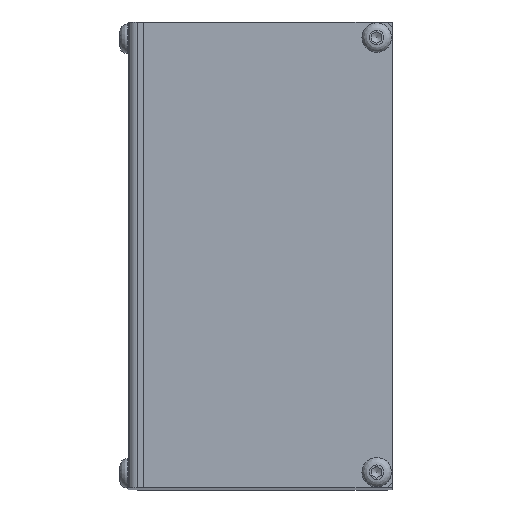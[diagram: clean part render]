
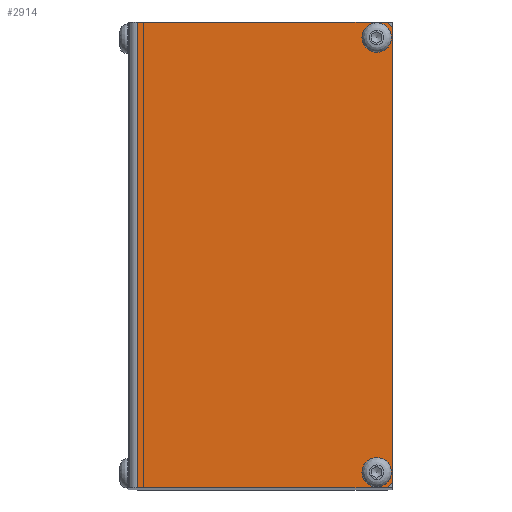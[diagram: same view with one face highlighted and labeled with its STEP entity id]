
A CAD part, top view. The second image highlights one B-rep face of the part: STEP entity #2914.
In plain terms, the highlighted planar face has unit normal (0, 0, 1).
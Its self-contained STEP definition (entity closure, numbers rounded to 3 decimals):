
#61=LINE('',#4568,#247);
#65=LINE('',#4577,#251);
#81=LINE('',#4613,#267);
#87=LINE('',#4628,#273);
#88=LINE('',#4629,#274);
#89=LINE('',#4630,#275);
#247=VECTOR('',#3613,1.414);
#251=VECTOR('',#3619,1.414);
#267=VECTOR('',#3643,90.);
#273=VECTOR('',#3663,88.);
#274=VECTOR('',#3664,48.2);
#275=VECTOR('',#3665,48.2);
#511=PLANE('',#3161);
#609=FACE_BOUND('',#956,.T.);
#610=FACE_BOUND('',#957,.T.);
#736=FACE_OUTER_BOUND('',#955,.T.);
#955=EDGE_LOOP('',(#2121,#2122,#2123,#2124,#2125,#2126));
#956=EDGE_LOOP('',(#2127));
#957=EDGE_LOOP('',(#2128));
#1166=CIRCLE('',#3110,2.85);
#1181=CIRCLE('',#3162,2.85);
#1302=VERTEX_POINT('',#4317);
#1355=VERTEX_POINT('',#4566);
#1356=VERTEX_POINT('',#4567);
#1359=VERTEX_POINT('',#4575);
#1360=VERTEX_POINT('',#4576);
#1375=VERTEX_POINT('',#4611);
#1376=VERTEX_POINT('',#4612);
#1379=VERTEX_POINT('',#4631);
#1565=EDGE_CURVE('',#1302,#1302,#1166,.T.);
#1638=EDGE_CURVE('',#1355,#1356,#61,.T.);
#1642=EDGE_CURVE('',#1359,#1360,#65,.T.);
#1658=EDGE_CURVE('',#1375,#1376,#81,.T.);
#1668=EDGE_CURVE('',#1360,#1355,#87,.T.);
#1669=EDGE_CURVE('',#1375,#1359,#88,.T.);
#1670=EDGE_CURVE('',#1356,#1376,#89,.T.);
#1671=EDGE_CURVE('',#1379,#1379,#1181,.T.);
#2121=ORIENTED_EDGE('',*,*,#1638,.F.);
#2122=ORIENTED_EDGE('',*,*,#1668,.F.);
#2123=ORIENTED_EDGE('',*,*,#1642,.F.);
#2124=ORIENTED_EDGE('',*,*,#1669,.F.);
#2125=ORIENTED_EDGE('',*,*,#1658,.T.);
#2126=ORIENTED_EDGE('',*,*,#1670,.F.);
#2127=ORIENTED_EDGE('',*,*,#1671,.T.);
#2128=ORIENTED_EDGE('',*,*,#1565,.T.);
#2914=ADVANCED_FACE('',(#736,#609,#610),#511,.T.);
#3110=AXIS2_PLACEMENT_3D('',#4318,#3491,#3492);
#3161=AXIS2_PLACEMENT_3D('',#4627,#3661,#3662);
#3162=AXIS2_PLACEMENT_3D('',#4632,#3666,#3667);
#3491=DIRECTION('center_axis',(0.,0.,
-1.));
#3492=DIRECTION('ref_axis',(1.,0.,0.));
#3613=DIRECTION('',(-0.707,-0.707,0.));
#3619=DIRECTION('',(0.707,-0.707,0.));
#3643=DIRECTION('',(0.,-1.,0.));
#3661=DIRECTION('center_axis',(0.,0.,
1.));
#3662=DIRECTION('ref_axis',(1.,0.,0.));
#3663=DIRECTION('',(0.,-1.,0.));
#3664=DIRECTION('',(1.,0.,0.));
#3665=DIRECTION('',(-1.,0.,0.));
#3666=DIRECTION('center_axis',(0.,0.,
-1.));
#3667=DIRECTION('ref_axis',(1.,0.,0.));
#4317=CARTESIAN_POINT('',(50.85,87.,250.));
#4318=CARTESIAN_POINT('Origin',(48.,87.,250.));
#4566=CARTESIAN_POINT('',(51.,1.,250.));
#4567=CARTESIAN_POINT('',(50.,0.,250.));
#4568=CARTESIAN_POINT('',(55.409,5.409,250.));
#4575=CARTESIAN_POINT('',(50.,90.,250.));
#4576=CARTESIAN_POINT('',(51.,89.,250.));
#4577=CARTESIAN_POINT('',(55.409,84.591,250.));
#4611=CARTESIAN_POINT('',(1.8,90.,250.));
#4612=CARTESIAN_POINT('',(1.8,0.,250.));
#4613=CARTESIAN_POINT('',(1.8,45.,250.));
#4627=CARTESIAN_POINT('Origin',(25.635,45.,250.));
#4628=CARTESIAN_POINT('',(51.,90.,250.));
#4629=CARTESIAN_POINT('',(1.8,90.,250.));
#4630=CARTESIAN_POINT('',(-1.259,0.,250.));
#4631=CARTESIAN_POINT('',(50.85,3.,250.));
#4632=CARTESIAN_POINT('Origin',(48.,3.,250.));
